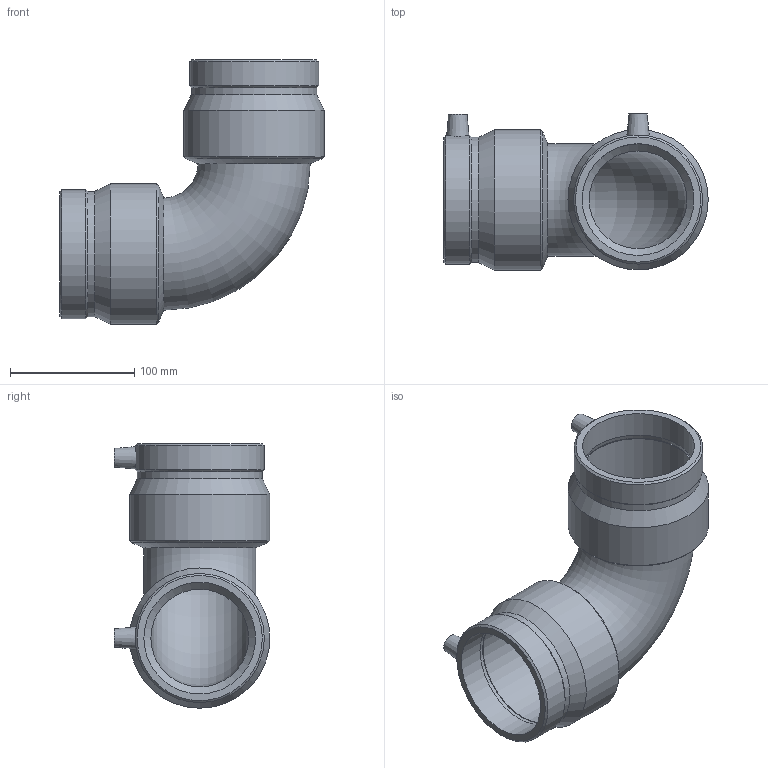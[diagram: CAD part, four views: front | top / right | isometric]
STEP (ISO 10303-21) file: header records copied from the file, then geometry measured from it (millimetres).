
FILE_DESCRIPTION(/* description */ ('PLASSON 90° ELBOW 90'),/* implementation_level */ '2;1');
FILE_NAME(/* name */ '490504090.stp',/* time_stamp */ '2026-03-22T13:12:45+02:00',/* author */ ('KIM'),/* organization */ (''),/* preprocessor_version */ 'ST-DEVELOPER v20.1',/* originating_system */ 'Autodesk Inventor 2026',/* authorisation */ '');
FILE_SCHEMA (('AUTOMOTIVE_DESIGN { 1 0 10303 214 3 1 1 }'));
Length unit declared in the file: millimetre
Products named in the file (1): 490504090
Bounding box: 213 x 125.5 x 213 mm (x, y, z)
Volume: 666271.3 mm3; surface area: 178813.3 mm2
Topology: 1 solids, 1 shells, 42 faces, 82 edges, 50 vertices
Faces by surface type: cone 16, cylinder 14, plane 10, torus 2
Full cylindrical faces by diameter (mm): 4 x2, 10 x2, 90 x4, 100.841 x2, 103.96 x2, 113 x2
Entity records: 1189 total; most frequent: CARTESIAN_POINT 243, DIRECTION 212, ORIENTED_EDGE 164, AXIS2_PLACEMENT_3D 91, EDGE_CURVE 82, EDGE_LOOP 52, VERTEX_POINT 50, CIRCLE 48
